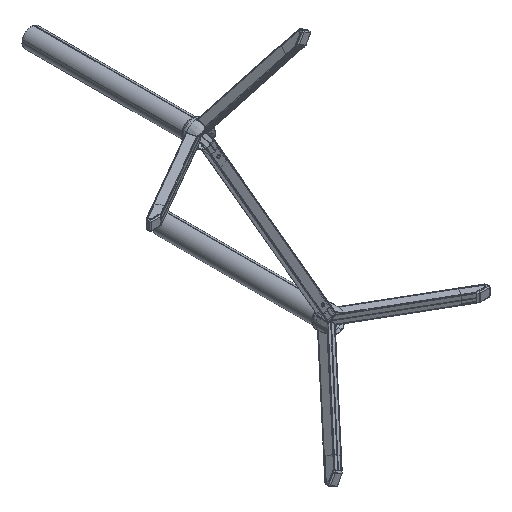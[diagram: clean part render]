
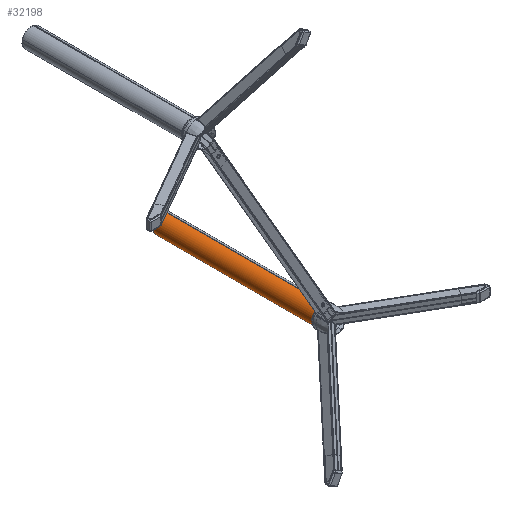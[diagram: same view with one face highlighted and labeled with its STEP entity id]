
A CAD part, isometric view. The second image highlights one B-rep face of the part: STEP entity #32198.
In plain terms, the highlighted cylindrical face has radius 30 mm (diameter 60 mm), a partial arc.
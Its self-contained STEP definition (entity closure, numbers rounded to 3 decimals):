
#194 = LINE ( 'NONE', #30142, #14111 ) ;
#386 = AXIS2_PLACEMENT_3D ( 'NONE', #25982, #24405, #10293 ) ;
#583 = VERTEX_POINT ( 'NONE', #19202 ) ;
#1140 = DIRECTION ( 'NONE',  ( 0., 0., -1. ) ) ;
#3268 = DIRECTION ( 'NONE',  ( 0., 0., -1. ) ) ;
#3567 = EDGE_CURVE ( 'NONE', #5967, #26271, #194, .T. ) ;
#5358 = DIRECTION ( 'NONE',  ( -1., 0., 0. ) ) ;
#5967 = VERTEX_POINT ( 'NONE', #27354 ) ;
#6766 = VECTOR ( 'NONE', #26378, 1000. ) ;
#6877 = CARTESIAN_POINT ( 'NONE',  ( 30., 0., 515. ) ) ;
#6978 = CYLINDRICAL_SURFACE ( 'NONE', #9691, 30. ) ;
#6989 = CARTESIAN_POINT ( 'NONE',  ( 30., 0., 515. ) ) ;
#9273 = EDGE_CURVE ( 'NONE', #9317, #12795, #17858, .T. ) ;
#9317 = VERTEX_POINT ( 'NONE', #25243 ) ;
#9432 = ORIENTED_EDGE ( 'NONE', *, *, #13903, .F. ) ;
#9691 = AXIS2_PLACEMENT_3D ( 'NONE', #19548, #3268, #24259 ) ;
#9813 = VECTOR ( 'NONE', #11085, 1000. ) ;
#10293 = DIRECTION ( 'NONE',  ( 1., 0., 0. ) ) ;
#10450 = ORIENTED_EDGE ( 'NONE', *, *, #9273, .T. ) ;
#11085 = DIRECTION ( 'NONE',  ( 0., 0., -1. ) ) ;
#11102 = LINE ( 'NONE', #6877, #13806 ) ;
#11312 = VERTEX_POINT ( 'NONE', #30964 ) ;
#11319 = CARTESIAN_POINT ( 'NONE',  ( 0., 0., 515. ) ) ;
#11801 = AXIS2_PLACEMENT_3D ( 'NONE', #22259, #25392, #17520 ) ;
#11862 = ORIENTED_EDGE ( 'NONE', *, *, #15395, .F. ) ;
#11995 = ORIENTED_EDGE ( 'NONE', *, *, #18207, .T. ) ;
#12260 = FACE_OUTER_BOUND ( 'NONE', #18678, .T. ) ;
#12795 = VERTEX_POINT ( 'NONE', #13144 ) ;
#13144 = CARTESIAN_POINT ( 'NONE',  ( -29.768, -3.724, 0. ) ) ;
#13398 = ORIENTED_EDGE ( 'NONE', *, *, #21675, .F. ) ;
#13806 = VECTOR ( 'NONE', #20002, 1000. ) ;
#13833 = EDGE_CURVE ( 'NONE', #26317, #28078, #17275, .T. ) ;
#13903 = EDGE_CURVE ( 'NONE', #9317, #11312, #16484, .T. ) ;
#14111 = VECTOR ( 'NONE', #18603, 1000. ) ;
#14326 = CARTESIAN_POINT ( 'NONE',  ( -30., 0., 515. ) ) ;
#14550 = ORIENTED_EDGE ( 'NONE', *, *, #13833, .F. ) ;
#14924 = DIRECTION ( 'NONE',  ( 0., 0., 1. ) ) ;
#15325 = CARTESIAN_POINT ( 'NONE',  ( 0., 0., 4.3 ) ) ;
#15395 = EDGE_CURVE ( 'NONE', #583, #5967, #29815, .T. ) ;
#16484 = CIRCLE ( 'NONE', #386, 30. ) ;
#16569 = CARTESIAN_POINT ( 'NONE',  ( -30., 0., 515. ) ) ;
#17275 = CIRCLE ( 'NONE', #21116, 30. ) ;
#17520 = DIRECTION ( 'NONE',  ( 1., 0., 0. ) ) ;
#17858 = LINE ( 'NONE', #18922, #9813 ) ;
#18207 = EDGE_CURVE ( 'NONE', #26317, #11312, #21680, .T. ) ;
#18603 = DIRECTION ( 'NONE',  ( 0., 0., -1. ) ) ;
#18678 = EDGE_LOOP ( 'NONE', ( #13398, #14550, #11995, #9432, #10450, #20200, #22850, #11862 ) ) ;
#18922 = CARTESIAN_POINT ( 'NONE',  ( -29.768, -3.724, 515. ) ) ;
#19202 = CARTESIAN_POINT ( 'NONE',  ( 30., 0., 4.3 ) ) ;
#19548 = CARTESIAN_POINT ( 'NONE',  ( 0., 0., 515. ) ) ;
#20002 = DIRECTION ( 'NONE',  ( 0., 0., -1. ) ) ;
#20200 = ORIENTED_EDGE ( 'NONE', *, *, #28848, .T. ) ;
#20989 = CIRCLE ( 'NONE', #11801, 30. ) ;
#21116 = AXIS2_PLACEMENT_3D ( 'NONE', #11319, #14924, #21228 ) ;
#21228 = DIRECTION ( 'NONE',  ( 1., 0., 0. ) ) ;
#21675 = EDGE_CURVE ( 'NONE', #28078, #583, #11102, .T. ) ;
#21680 = LINE ( 'NONE', #14326, #6766 ) ;
#22182 = AXIS2_PLACEMENT_3D ( 'NONE', #15325, #1140, #5358 ) ;
#22259 = CARTESIAN_POINT ( 'NONE',  ( 0., 0., 0. ) ) ;
#22850 = ORIENTED_EDGE ( 'NONE', *, *, #3567, .F. ) ;
#24259 = DIRECTION ( 'NONE',  ( -1., 0., 0. ) ) ;
#24405 = DIRECTION ( 'NONE',  ( 0., 0., -1. ) ) ;
#25243 = CARTESIAN_POINT ( 'NONE',  ( -29.768, -3.724, 4.3 ) ) ;
#25392 = DIRECTION ( 'NONE',  ( 0., 0., 1. ) ) ;
#25982 = CARTESIAN_POINT ( 'NONE',  ( 0., 0., 4.3 ) ) ;
#26271 = VERTEX_POINT ( 'NONE', #31262 ) ;
#26317 = VERTEX_POINT ( 'NONE', #16569 ) ;
#26378 = DIRECTION ( 'NONE',  ( 0., 0., -1. ) ) ;
#27354 = CARTESIAN_POINT ( 'NONE',  ( 29.768, -3.724, 4.3 ) ) ;
#28078 = VERTEX_POINT ( 'NONE', #6989 ) ;
#28848 = EDGE_CURVE ( 'NONE', #12795, #26271, #20989, .T. ) ;
#29815 = CIRCLE ( 'NONE', #22182, 30. ) ;
#30142 = CARTESIAN_POINT ( 'NONE',  ( 29.768, -3.724, 515. ) ) ;
#30964 = CARTESIAN_POINT ( 'NONE',  ( -30., 0., 4.3 ) ) ;
#31262 = CARTESIAN_POINT ( 'NONE',  ( 29.768, -3.724, 0. ) ) ;
#32198 = ADVANCED_FACE ( 'NONE', ( #12260 ), #6978, .T. ) ;
